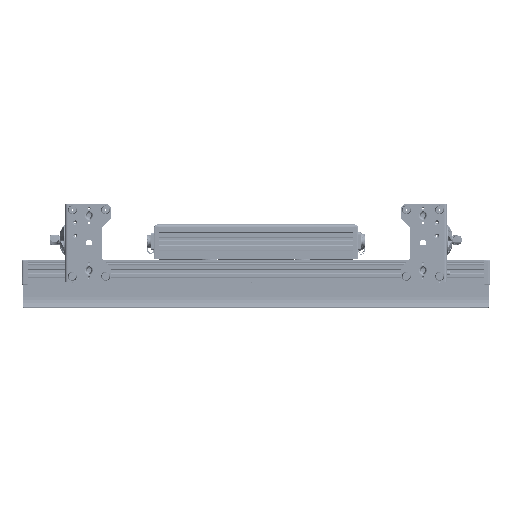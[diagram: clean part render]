
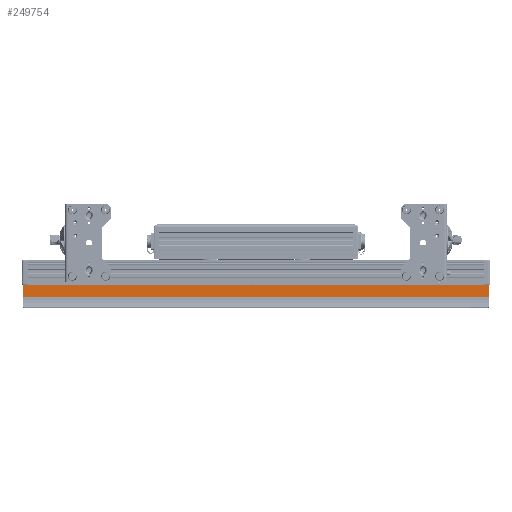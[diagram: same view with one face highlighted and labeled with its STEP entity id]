
A CAD part, left-side view. The second image highlights one B-rep face of the part: STEP entity #249754.
In plain terms, the highlighted planar face has unit normal (-1, 0, 0).
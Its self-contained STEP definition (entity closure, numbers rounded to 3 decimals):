
#249184=DIRECTION('',(0.,-1.,0.));
#249185=VECTOR('',#249184,30.);
#249186=CARTESIAN_POINT('',(3.35,-20.,-456.));
#249187=LINE('',#249186,#249185);
#249188=CARTESIAN_POINT('',(3.35,-50.2,360.));
#249189=DIRECTION('',(1.,0.,0.));
#249190=DIRECTION('',(0.,1.,0.));
#249191=AXIS2_PLACEMENT_3D('',#249188,#249189,#249190);
#249193=CARTESIAN_POINT('',(3.35,-50.2,360.));
#249194=DIRECTION('',(1.,0.,0.));
#249195=DIRECTION('',(0.,-1.,0.));
#249196=AXIS2_PLACEMENT_3D('',#249193,#249194,#249195);
#249198=CARTESIAN_POINT('',(3.35,-50.2,-360.));
#249199=DIRECTION('',(1.,0.,0.));
#249200=DIRECTION('',(0.,1.,0.));
#249201=AXIS2_PLACEMENT_3D('',#249198,#249199,#249200);
#249203=CARTESIAN_POINT('',(3.35,-50.2,-360.));
#249204=DIRECTION('',(1.,0.,0.));
#249205=DIRECTION('',(0.,-1.,0.));
#249206=AXIS2_PLACEMENT_3D('',#249203,#249204,#249205);
#249208=CARTESIAN_POINT('',(3.35,-50.2,-10.));
#249209=DIRECTION('',(1.,0.,0.));
#249210=DIRECTION('',(0.,1.,0.));
#249211=AXIS2_PLACEMENT_3D('',#249208,#249209,#249210);
#249213=CARTESIAN_POINT('',(3.35,-50.2,-10.));
#249214=DIRECTION('',(1.,0.,0.));
#249215=DIRECTION('',(0.,-1.,0.));
#249216=AXIS2_PLACEMENT_3D('',#249213,#249214,#249215);
#249218=CARTESIAN_POINT('',(3.35,-50.,-452.));
#249219=DIRECTION('',(-1.,0.,0.));
#249220=DIRECTION('',(0.,0.,-1.));
#249221=AXIS2_PLACEMENT_3D('',#249218,#249219,#249220);
#249223=DIRECTION('',(0.,0.,1.));
#249224=VECTOR('',#249223,912.);
#249225=CARTESIAN_POINT('',(3.35,-20.,-456.));
#249226=LINE('',#249225,#249224);
#249227=CARTESIAN_POINT('',(3.35,-50.,452.));
#249228=DIRECTION('',(-1.,0.,0.));
#249229=DIRECTION('',(0.,-1.,0.));
#249230=AXIS2_PLACEMENT_3D('',#249227,#249228,#249229);
#249232=DIRECTION('',(0.,0.,-1.));
#249233=VECTOR('',#249232,5.);
#249234=CARTESIAN_POINT('',(3.35,-54.,452.));
#249235=LINE('',#249234,#249233);
#249236=DIRECTION('',(0.,1.,0.));
#249237=VECTOR('',#249236,1.7);
#249238=CARTESIAN_POINT('',(3.35,-59.7,443.));
#249239=LINE('',#249238,#249237);
#249240=DIRECTION('',(0.,0.,1.));
#249241=VECTOR('',#249240,886.);
#249242=CARTESIAN_POINT('',(3.35,-59.7,-443.));
#249243=LINE('',#249242,#249241);
#249244=DIRECTION('',(0.,1.,0.));
#249245=VECTOR('',#249244,1.7);
#249246=CARTESIAN_POINT('',(3.35,-59.7,-443.));
#249247=LINE('',#249246,#249245);
#249248=DIRECTION('',(0.,0.,1.));
#249249=VECTOR('',#249248,5.);
#249250=CARTESIAN_POINT('',(3.35,-54.,-452.));
#249251=LINE('',#249250,#249249);
#249349=CARTESIAN_POINT('',(3.35,-58.,-447.));
#249350=DIRECTION('',(1.,0.,0.));
#249351=DIRECTION('',(0.,1.,0.));
#249352=AXIS2_PLACEMENT_3D('',#249349,#249350,#249351);
#249413=CARTESIAN_POINT('',(3.35,-58.,447.));
#249414=DIRECTION('',(1.,0.,0.));
#249415=DIRECTION('',(0.,0.,-1.));
#249416=AXIS2_PLACEMENT_3D('',#249413,#249414,#249415);
#249430=DIRECTION('',(0.,-1.,0.));
#249431=VECTOR('',#249430,30.);
#249432=CARTESIAN_POINT('',(3.35,-20.,456.));
#249433=LINE('',#249432,#249431);
#249562=CARTESIAN_POINT('',(3.35,-20.,-456.));
#249563=CARTESIAN_POINT('',(3.35,-20.,456.));
#249564=VERTEX_POINT('',#249562);
#249565=VERTEX_POINT('',#249563);
#249584=CARTESIAN_POINT('',(3.35,-47.45,360.));
#249585=CARTESIAN_POINT('',(3.35,-52.95,360.));
#249586=VERTEX_POINT('',#249584);
#249587=VERTEX_POINT('',#249585);
#249588=CARTESIAN_POINT('',(3.35,-47.45,-360.));
#249589=CARTESIAN_POINT('',(3.35,-52.95,-360.));
#249590=VERTEX_POINT('',#249588);
#249591=VERTEX_POINT('',#249589);
#249592=CARTESIAN_POINT('',(3.35,-47.45,-10.));
#249593=CARTESIAN_POINT('',(3.35,-52.95,-10.));
#249594=VERTEX_POINT('',#249592);
#249595=VERTEX_POINT('',#249593);
#249617=CARTESIAN_POINT('',(3.35,-59.7,-443.));
#249619=VERTEX_POINT('',#249617);
#249621=CARTESIAN_POINT('',(3.35,-59.7,443.));
#249623=VERTEX_POINT('',#249621);
#249624=CARTESIAN_POINT('',(3.35,-50.,-456.));
#249625=CARTESIAN_POINT('',(3.35,-54.,-452.));
#249626=VERTEX_POINT('',#249624);
#249627=VERTEX_POINT('',#249625);
#249636=CARTESIAN_POINT('',(3.35,-54.,452.));
#249637=VERTEX_POINT('',#249636);
#249638=CARTESIAN_POINT('',(3.35,-50.,456.));
#249639=VERTEX_POINT('',#249638);
#249641=CARTESIAN_POINT('',(3.35,-58.,-443.));
#249643=VERTEX_POINT('',#249641);
#249645=CARTESIAN_POINT('',(3.35,-54.,-447.));
#249647=VERTEX_POINT('',#249645);
#249649=CARTESIAN_POINT('',(3.35,-54.,447.));
#249651=VERTEX_POINT('',#249649);
#249653=CARTESIAN_POINT('',(3.35,-58.,443.));
#249655=VERTEX_POINT('',#249653);
#249707=CARTESIAN_POINT('',(3.35,-20.,-456.));
#249708=DIRECTION('',(-1.,0.,0.));
#249709=DIRECTION('',(0.,-1.,0.));
#249710=AXIS2_PLACEMENT_3D('',#249707,#249708,#249709);
#249711=PLANE('',#249710);
#249712=ORIENTED_EDGE('',*,*,#249697,.F.);
#249713=ORIENTED_EDGE('',*,*,#249687,.F.);
#249715=ORIENTED_EDGE('',*,*,#249714,.T.);
#249717=ORIENTED_EDGE('',*,*,#249716,.T.);
#249719=ORIENTED_EDGE('',*,*,#249718,.F.);
#249721=ORIENTED_EDGE('',*,*,#249720,.T.);
#249723=ORIENTED_EDGE('',*,*,#249722,.F.);
#249725=ORIENTED_EDGE('',*,*,#249724,.F.);
#249727=ORIENTED_EDGE('',*,*,#249726,.F.);
#249729=ORIENTED_EDGE('',*,*,#249728,.T.);
#249731=ORIENTED_EDGE('',*,*,#249730,.F.);
#249733=ORIENTED_EDGE('',*,*,#249732,.F.);
#249734=EDGE_LOOP('',(#249712,#249713,#249715,#249717,#249719,#249721,#249723,
#249725,#249727,#249729,#249731,#249733));
#249735=FACE_OUTER_BOUND('',#249734,.F.);
#249737=ORIENTED_EDGE('',*,*,#249736,.F.);
#249739=ORIENTED_EDGE('',*,*,#249738,.F.);
#249740=EDGE_LOOP('',(#249737,#249739));
#249741=FACE_BOUND('',#249740,.F.);
#249743=ORIENTED_EDGE('',*,*,#249742,.F.);
#249745=ORIENTED_EDGE('',*,*,#249744,.F.);
#249746=EDGE_LOOP('',(#249743,#249745));
#249747=FACE_BOUND('',#249746,.F.);
#249749=ORIENTED_EDGE('',*,*,#249748,.F.);
#249751=ORIENTED_EDGE('',*,*,#249750,.F.);
#249752=EDGE_LOOP('',(#249749,#249751));
#249753=FACE_BOUND('',#249752,.F.);
#249192=CIRCLE('',#249191,2.75);
#249197=CIRCLE('',#249196,2.75);
#249202=CIRCLE('',#249201,2.75);
#249207=CIRCLE('',#249206,2.75);
#249212=CIRCLE('',#249211,2.75);
#249217=CIRCLE('',#249216,2.75);
#249222=CIRCLE('',#249221,4.);
#249231=CIRCLE('',#249230,4.);
#249353=CIRCLE('',#249352,4.);
#249417=CIRCLE('',#249416,4.);
#249687=EDGE_CURVE('',#249564,#249626,#249187,.T.);
#249697=EDGE_CURVE('',#249626,#249627,#249222,.T.);
#249714=EDGE_CURVE('',#249564,#249565,#249226,.T.);
#249716=EDGE_CURVE('',#249565,#249639,#249433,.T.);
#249718=EDGE_CURVE('',#249637,#249639,#249231,.T.);
#249720=EDGE_CURVE('',#249637,#249651,#249235,.T.);
#249722=EDGE_CURVE('',#249655,#249651,#249417,.T.);
#249724=EDGE_CURVE('',#249623,#249655,#249239,.T.);
#249726=EDGE_CURVE('',#249619,#249623,#249243,.T.);
#249728=EDGE_CURVE('',#249619,#249643,#249247,.T.);
#249730=EDGE_CURVE('',#249647,#249643,#249353,.T.);
#249732=EDGE_CURVE('',#249627,#249647,#249251,.T.);
#249736=EDGE_CURVE('',#249590,#249591,#249202,.T.);
#249738=EDGE_CURVE('',#249591,#249590,#249207,.T.);
#249742=EDGE_CURVE('',#249594,#249595,#249212,.T.);
#249744=EDGE_CURVE('',#249595,#249594,#249217,.T.);
#249748=EDGE_CURVE('',#249586,#249587,#249192,.T.);
#249750=EDGE_CURVE('',#249587,#249586,#249197,.T.);
#249754=ADVANCED_FACE('',(#249735,#249741,#249747,#249753),#249711,.T.);
